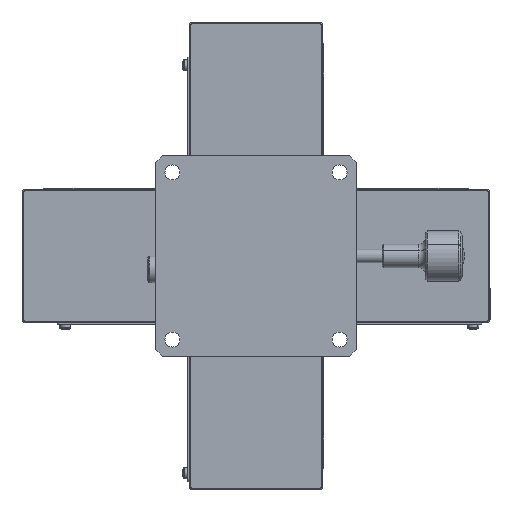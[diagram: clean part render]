
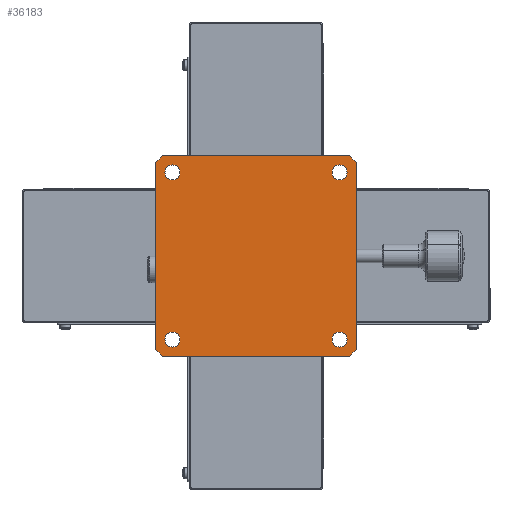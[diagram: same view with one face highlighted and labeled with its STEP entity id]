
A CAD part, front view. The second image highlights one B-rep face of the part: STEP entity #36183.
In plain terms, the highlighted planar face has unit normal (0, -1, 0).
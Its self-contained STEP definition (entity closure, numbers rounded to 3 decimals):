
#227 = VERTEX_POINT ( 'NONE', #114696 ) ;
#640 = DIRECTION ( 'NONE',  ( 0., 0., -1. ) ) ;
#825 = CIRCLE ( 'NONE', #23272, 2.25 ) ;
#952 = AXIS2_PLACEMENT_3D ( 'NONE', #38609, #110725, #49006 ) ;
#1993 = LINE ( 'NONE', #132096, #29376 ) ;
#4412 = DIRECTION ( 'NONE',  ( 0., 0., -1. ) ) ;
#6886 = CIRCLE ( 'NONE', #83083, 2.25 ) ;
#7184 = ORIENTED_EDGE ( 'NONE', *, *, #61145, .T. ) ;
#8303 = LINE ( 'NONE', #132171, #111455 ) ;
#8347 = DIRECTION ( 'NONE',  ( -1., 0., 0. ) ) ;
#9139 = VECTOR ( 'NONE', #37355, 1000. ) ;
#9674 = ORIENTED_EDGE ( 'NONE', *, *, #72061, .T. ) ;
#11466 = VERTEX_POINT ( 'NONE', #79532 ) ;
#12365 = LINE ( 'NONE', #58118, #9139 ) ;
#13043 = CARTESIAN_POINT ( 'NONE',  ( 25., 0., -25. ) ) ;
#13664 = EDGE_CURVE ( 'NONE', #99155, #227, #106473, .T. ) ;
#15135 = CARTESIAN_POINT ( 'NONE',  ( 25., 0., 25. ) ) ;
#15365 = EDGE_LOOP ( 'NONE', ( #31336, #92093, #67005, #7184, #62792, #85391, #26157, #68326 ) ) ;
#15625 = ORIENTED_EDGE ( 'NONE', *, *, #23749, .T. ) ;
#17244 = PLANE ( 'NONE',  #107701 ) ;
#17452 = CARTESIAN_POINT ( 'NONE',  ( 28., 0., 30. ) ) ;
#17722 = EDGE_CURVE ( 'NONE', #50391, #41725, #12365, .T. ) ;
#17785 = EDGE_LOOP ( 'NONE', ( #91079, #96602 ) ) ;
#17873 = CARTESIAN_POINT ( 'NONE',  ( -28., 0., 30. ) ) ;
#19774 = DIRECTION ( 'NONE',  ( 0., 0., 1. ) ) ;
#20090 = FACE_BOUND ( 'NONE', #74707, .T. ) ;
#20814 = VERTEX_POINT ( 'NONE', #23226 ) ;
#21118 = ORIENTED_EDGE ( 'NONE', *, *, #119473, .T. ) ;
#21559 = CARTESIAN_POINT ( 'NONE',  ( 30., 0., -30. ) ) ;
#22254 = CARTESIAN_POINT ( 'NONE',  ( 30., 0., 30. ) ) ;
#23226 = CARTESIAN_POINT ( 'NONE',  ( 28., 0., -30. ) ) ;
#23272 = AXIS2_PLACEMENT_3D ( 'NONE', #57956, #130001, #68292 ) ;
#23425 = DIRECTION ( 'NONE',  ( 0., 0., -1. ) ) ;
#23749 = EDGE_CURVE ( 'NONE', #91594, #11466, #133086, .T. ) ;
#24468 = CIRCLE ( 'NONE', #33892, 2.25 ) ;
#25529 = DIRECTION ( 'NONE',  ( 0., 0., -1. ) ) ;
#25753 = CARTESIAN_POINT ( 'NONE',  ( -25., 0., 22.75 ) ) ;
#26157 = ORIENTED_EDGE ( 'NONE', *, *, #72263, .F. ) ;
#27607 = DIRECTION ( 'NONE',  ( 0., 0., 1. ) ) ;
#29376 = VECTOR ( 'NONE', #49696, 1000. ) ;
#29522 = CARTESIAN_POINT ( 'NONE',  ( 29., 0., -29. ) ) ;
#29998 = VECTOR ( 'NONE', #102898, 1000. ) ;
#31336 = ORIENTED_EDGE ( 'NONE', *, *, #67575, .F. ) ;
#31731 = AXIS2_PLACEMENT_3D ( 'NONE', #39293, #111390, #49658 ) ;
#33892 = AXIS2_PLACEMENT_3D ( 'NONE', #15135, #87291, #25529 ) ;
#36183 = ADVANCED_FACE ( 'NONE', ( #20090, #74908, #129676, #105576, #126430 ), #17244, .T. ) ;
#37057 = CARTESIAN_POINT ( 'NONE',  ( 30., 0., -30. ) ) ;
#37065 = VECTOR ( 'NONE', #39850, 1000. ) ;
#37355 = DIRECTION ( 'NONE',  ( 0.707, 0., -0.707 ) ) ;
#38308 = CARTESIAN_POINT ( 'NONE',  ( -30., 0., 28. ) ) ;
#38609 = CARTESIAN_POINT ( 'NONE',  ( -25., 0., 25. ) ) ;
#39293 = CARTESIAN_POINT ( 'NONE',  ( 25., 0., 25. ) ) ;
#39850 = DIRECTION ( 'NONE',  ( 0.707, 0., 0.707 ) ) ;
#41725 = VERTEX_POINT ( 'NONE', #127172 ) ;
#44143 = EDGE_CURVE ( 'NONE', #20814, #85365, #88762, .T. ) ;
#44886 = EDGE_LOOP ( 'NONE', ( #68298, #9674 ) ) ;
#47117 = AXIS2_PLACEMENT_3D ( 'NONE', #60588, #132615, #70926 ) ;
#47189 = VECTOR ( 'NONE', #104716, 1000. ) ;
#47684 = EDGE_CURVE ( 'NONE', #227, #99155, #81407, .T. ) ;
#49006 = DIRECTION ( 'NONE',  ( 0., 0., -1. ) ) ;
#49658 = DIRECTION ( 'NONE',  ( 0., 0., -1. ) ) ;
#49696 = DIRECTION ( 'NONE',  ( -0.707, 0., -0.707 ) ) ;
#50141 = EDGE_CURVE ( 'NONE', #66939, #90665, #69580, .T. ) ;
#50391 = VERTEX_POINT ( 'NONE', #98258 ) ;
#50420 = LINE ( 'NONE', #22254, #47189 ) ;
#53352 = VERTEX_POINT ( 'NONE', #62900 ) ;
#53768 = AXIS2_PLACEMENT_3D ( 'NONE', #127824, #66140, #4412 ) ;
#54782 = CARTESIAN_POINT ( 'NONE',  ( 25., 0., 27.25 ) ) ;
#54813 = VECTOR ( 'NONE', #19774, 1000. ) ;
#57956 = CARTESIAN_POINT ( 'NONE',  ( -25., 0., 25. ) ) ;
#58118 = CARTESIAN_POINT ( 'NONE',  ( 1., 0., -59. ) ) ;
#59216 = LINE ( 'NONE', #21559, #114030 ) ;
#59257 = EDGE_LOOP ( 'NONE', ( #21118, #103451 ) ) ;
#60588 = CARTESIAN_POINT ( 'NONE',  ( -25., 0., -25. ) ) ;
#60638 = LINE ( 'NONE', #80859, #29998 ) ;
#61145 = EDGE_CURVE ( 'NONE', #80995, #73178, #1993, .T. ) ;
#62368 = DIRECTION ( 'NONE',  ( 0., 1., 0. ) ) ;
#62792 = ORIENTED_EDGE ( 'NONE', *, *, #130337, .F. ) ;
#62900 = CARTESIAN_POINT ( 'NONE',  ( 30., 0., 28. ) ) ;
#66140 = DIRECTION ( 'NONE',  ( 0., 1., 0. ) ) ;
#66939 = VERTEX_POINT ( 'NONE', #130294 ) ;
#66941 = CIRCLE ( 'NONE', #128221, 2.25 ) ;
#67005 = ORIENTED_EDGE ( 'NONE', *, *, #71131, .F. ) ;
#67575 = EDGE_CURVE ( 'NONE', #53352, #85365, #59216, .T. ) ;
#68292 = DIRECTION ( 'NONE',  ( 0., 0., -1. ) ) ;
#68298 = ORIENTED_EDGE ( 'NONE', *, *, #50141, .T. ) ;
#68326 = ORIENTED_EDGE ( 'NONE', *, *, #44143, .T. ) ;
#69580 = CIRCLE ( 'NONE', #31731, 2.25 ) ;
#70926 = DIRECTION ( 'NONE',  ( 0., 0., -1. ) ) ;
#71131 = EDGE_CURVE ( 'NONE', #80995, #85191, #50420, .T. ) ;
#72061 = EDGE_CURVE ( 'NONE', #90665, #66939, #24468, .T. ) ;
#72263 = EDGE_CURVE ( 'NONE', #20814, #41725, #8303, .T. ) ;
#73178 = VERTEX_POINT ( 'NONE', #38308 ) ;
#74707 = EDGE_LOOP ( 'NONE', ( #15625, #108374 ) ) ;
#74908 = FACE_BOUND ( 'NONE', #44886, .T. ) ;
#79532 = CARTESIAN_POINT ( 'NONE',  ( -25., 0., 27.25 ) ) ;
#80859 = CARTESIAN_POINT ( 'NONE',  ( 59., 0., -1. ) ) ;
#80995 = VERTEX_POINT ( 'NONE', #17873 ) ;
#81407 = CIRCLE ( 'NONE', #47117, 2.25 ) ;
#82474 = EDGE_CURVE ( 'NONE', #11466, #91594, #825, .T. ) ;
#83083 = AXIS2_PLACEMENT_3D ( 'NONE', #13043, #85144, #23425 ) ;
#85144 = DIRECTION ( 'NONE',  ( 0., 1., 0. ) ) ;
#85191 = VERTEX_POINT ( 'NONE', #17452 ) ;
#85365 = VERTEX_POINT ( 'NONE', #116871 ) ;
#85391 = ORIENTED_EDGE ( 'NONE', *, *, #17722, .T. ) ;
#86341 = EDGE_CURVE ( 'NONE', #91542, #133626, #6886, .T. ) ;
#87291 = DIRECTION ( 'NONE',  ( 0., 1., 0. ) ) ;
#88762 = LINE ( 'NONE', #29522, #37065 ) ;
#89395 = DIRECTION ( 'NONE',  ( 0., -1., 0. ) ) ;
#90665 = VERTEX_POINT ( 'NONE', #54782 ) ;
#91079 = ORIENTED_EDGE ( 'NONE', *, *, #13664, .T. ) ;
#91542 = VERTEX_POINT ( 'NONE', #107324 ) ;
#91594 = VERTEX_POINT ( 'NONE', #25753 ) ;
#92093 = ORIENTED_EDGE ( 'NONE', *, *, #113246, .T. ) ;
#93695 = DIRECTION ( 'NONE',  ( 0., 0., -1. ) ) ;
#96602 = ORIENTED_EDGE ( 'NONE', *, *, #47684, .T. ) ;
#98258 = CARTESIAN_POINT ( 'NONE',  ( -30., 0., -28. ) ) ;
#99155 = VERTEX_POINT ( 'NONE', #100723 ) ;
#100723 = CARTESIAN_POINT ( 'NONE',  ( -25., 0., -27.25 ) ) ;
#102260 = CARTESIAN_POINT ( 'NONE',  ( -30., 0., -30. ) ) ;
#102898 = DIRECTION ( 'NONE',  ( -0.707, 0., 0.707 ) ) ;
#103451 = ORIENTED_EDGE ( 'NONE', *, *, #86341, .T. ) ;
#104716 = DIRECTION ( 'NONE',  ( 1., 0., 0. ) ) ;
#105028 = CARTESIAN_POINT ( 'NONE',  ( 25., 0., -27.25 ) ) ;
#105576 = FACE_BOUND ( 'NONE', #59257, .T. ) ;
#106473 = CIRCLE ( 'NONE', #53768, 2.25 ) ;
#107324 = CARTESIAN_POINT ( 'NONE',  ( 25., 0., -22.75 ) ) ;
#107701 = AXIS2_PLACEMENT_3D ( 'NONE', #37057, #89395, #27607 ) ;
#108374 = ORIENTED_EDGE ( 'NONE', *, *, #82474, .T. ) ;
#109624 = LINE ( 'NONE', #102260, #54813 ) ;
#110725 = DIRECTION ( 'NONE',  ( 0., 1., 0. ) ) ;
#111390 = DIRECTION ( 'NONE',  ( 0., 1., 0. ) ) ;
#111455 = VECTOR ( 'NONE', #8347, 1000. ) ;
#113246 = EDGE_CURVE ( 'NONE', #53352, #85191, #60638, .T. ) ;
#114030 = VECTOR ( 'NONE', #93695, 1000. ) ;
#114696 = CARTESIAN_POINT ( 'NONE',  ( -25., 0., -22.75 ) ) ;
#116871 = CARTESIAN_POINT ( 'NONE',  ( 30., 0., -28. ) ) ;
#119473 = EDGE_CURVE ( 'NONE', #133626, #91542, #66941, .T. ) ;
#124028 = CARTESIAN_POINT ( 'NONE',  ( 25., 0., -25. ) ) ;
#126430 = FACE_OUTER_BOUND ( 'NONE', #15365, .T. ) ;
#127172 = CARTESIAN_POINT ( 'NONE',  ( -28., 0., -30. ) ) ;
#127824 = CARTESIAN_POINT ( 'NONE',  ( -25., 0., -25. ) ) ;
#128221 = AXIS2_PLACEMENT_3D ( 'NONE', #124028, #62368, #640 ) ;
#129676 = FACE_BOUND ( 'NONE', #17785, .T. ) ;
#130001 = DIRECTION ( 'NONE',  ( 0., 1., 0. ) ) ;
#130294 = CARTESIAN_POINT ( 'NONE',  ( 25., 0., 22.75 ) ) ;
#130337 = EDGE_CURVE ( 'NONE', #50391, #73178, #109624, .T. ) ;
#132096 = CARTESIAN_POINT ( 'NONE',  ( -29., 0., 29. ) ) ;
#132171 = CARTESIAN_POINT ( 'NONE',  ( 30., 0., -30. ) ) ;
#132615 = DIRECTION ( 'NONE',  ( 0., 1., 0. ) ) ;
#133086 = CIRCLE ( 'NONE', #952, 2.25 ) ;
#133626 = VERTEX_POINT ( 'NONE', #105028 ) ;
